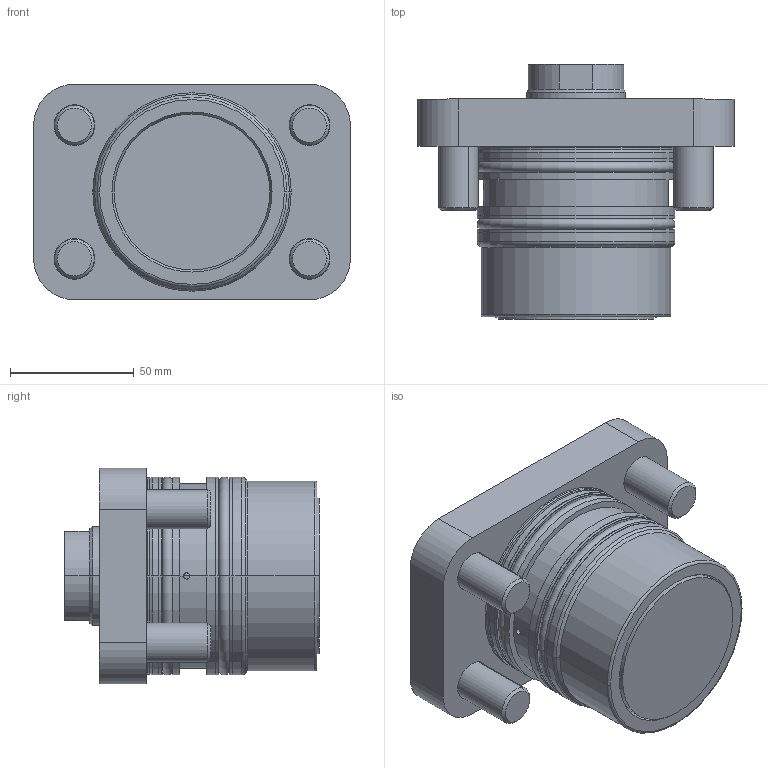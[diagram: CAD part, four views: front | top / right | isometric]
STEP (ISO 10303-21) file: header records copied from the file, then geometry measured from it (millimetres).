
FILE_DESCRIPTION (( 'STEP AP203' ), '1' );
FILE_NAME ('GERMA_Einbauzylinder_210-063-030.STEP', '2023-09-07T06:52:20', ( '' ), ( '' ), 'SwSTEP 2.0', 'SolidWorks 2016', '' );
FILE_SCHEMA (( 'CONFIG_CONTROL_DESIGN' ));
Length unit declared in the file: millimetre
Products named in the file (4): GERMA_Einbauzylinder_210-063-030; DIN7984-M16x35; Gehaeuse 210-063_Gehaeuse 210-063-030; Kolben 60x-063_Kolben DU.63-Hub30-IG
Assembly tree (6 placements, depth 2):
  GERMA_Einbauzylinder_210-063-030
    Gehaeuse 210-063_Gehaeuse 210-063-030
    Kolben 60x-063_Kolben DU.63-Hub30-IG
    DIN7984-M16x35  x4
Bounding box: 128 x 103 x 87 mm (x, y, z)
Volume: 487961.7 mm3; surface area: 104191.8 mm2
Topology: 6 solids, 6 shells, 374 faces, 893 edges, 558 vertices
Faces by surface type: plane 163, bspline 84, cylinder 75, cone 30, torus 22
Entity records: 12976 total; most frequent: CARTESIAN_POINT 5900, ORIENTED_EDGE 1430, DIRECTION 1218, EDGE_CURVE 715, VERTEX_POINT 459, AXIS2_PLACEMENT_3D 421, LINE 376, VECTOR 376
